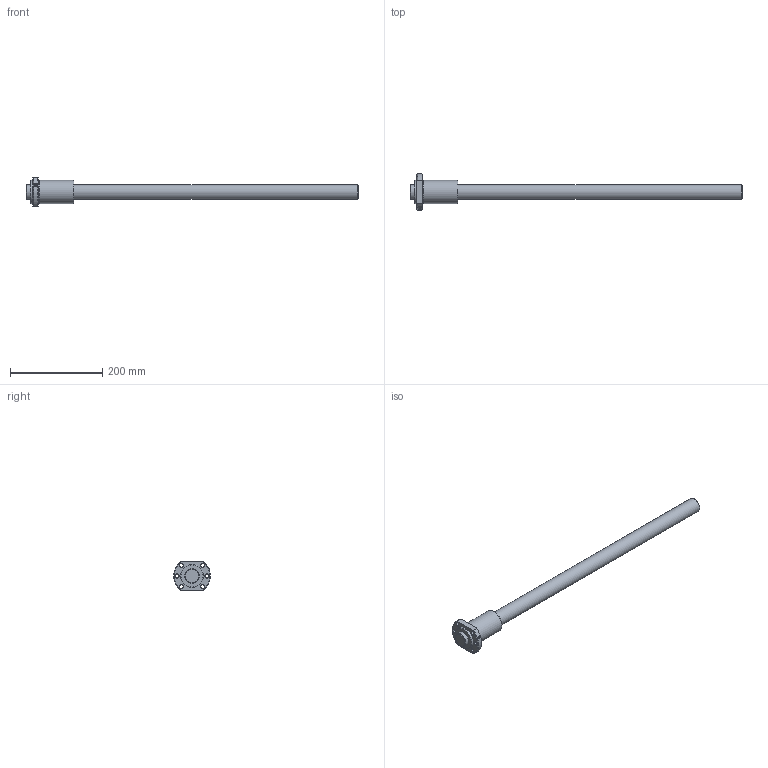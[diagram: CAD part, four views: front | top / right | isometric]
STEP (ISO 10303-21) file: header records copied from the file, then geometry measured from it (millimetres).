
FILE_DESCRIPTION(/* description */ ('STEP AP214'),/* implementation_level */ '2;1');
FILE_NAME(/* name */ 'EBB3210-4RRG0+720LC0-ebb2(606G000)-ebb2',/* time_stamp */ '2023-08-03T12:50:19+02:00',/* author */ ('License CC BY-ND 4.0'),/* organization */ ('CADENAS'),/* preprocessor_version */ 'ST-DEVELOPER v19.3',/* originating_system */ 'PARTsolutions',/* authorisation */ ' ');
FILE_SCHEMA (('AUTOMOTIVE_DESIGN {1 0 10303 214 3 1 1}'));
Length unit declared in the file: millimetre
Products named in the file (3): EBB3210-4RRG0+720LC0-ebb2(606G000)-ebb2; EBB 3210-4RR Nut2; EBB 3210-46060 Shaft2
Assembly tree (2 placements, depth 2):
  EBB3210-4RRG0+720LC0-ebb2(606G000)-ebb2
    EBB 3210-4RR Nut2
    EBB 3210-46060 Shaft2
Bounding box: 720 x 79.74 x 62 mm (x, y, z)
Volume: 710988.5 mm3; surface area: 107886.2 mm2
Topology: 2 solids, 2 shells, 32 faces, 72 edges, 47 vertices
Faces by surface type: cylinder 14, cone 9, plane 9
Full cylindrical faces by diameter (mm): 4.917 x1, 9 x6, 32 x2, 47 x1, 50 x2
Entity records: 935 total; most frequent: CARTESIAN_POINT 177, DIRECTION 148, ORIENTED_EDGE 106, AXIS2_PLACEMENT_3D 70, EDGE_LOOP 68, FACE_BOUND 68, EDGE_CURVE 53, VERTEX_POINT 45
